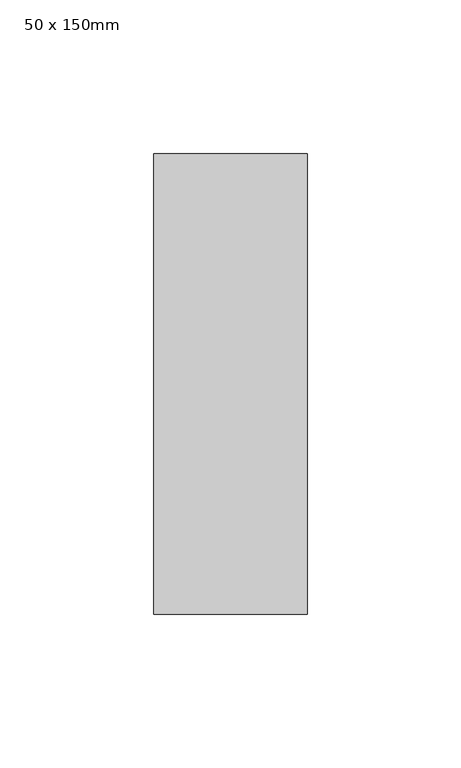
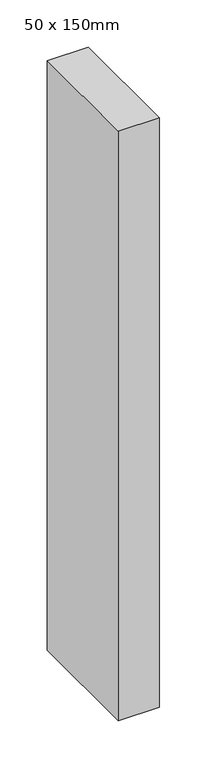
"""IFC4 building model written with IfcOpenShell, lengths in millimetres: member geometry, Прямоугольный импост : 50 x 150mm."""

from ifc_helpers import new_model, si_unit, frame, origin, place, context, project, spatial, polyline, outline, extrude, source, transform, mapped, element, save


def member_50_x_150mm_df842e1d(model_context):
    return source(origin(), model_context, "Body", "SweptSolid", [
        extrude(outline(polyline([(0.0, 75.0), (0.0, -75.0), (-50.0, -75.0), (-50.0, 75.0), (0.0, 75.0)])), frame((0.0, 0.0, -759.6264863), z_axis=(0.0, 0.0, 1.0), x_axis=(1.0, 0.0, 0.0)), (0.0, 0.0, 1.0), 759.6264863),
    ])


if __name__ == "__main__":
    model = new_model("IFC4")
    model_context = context("Model", 3, world=origin())
    ifc_project = project(units=[si_unit("LENGTHUNIT", "METRE", prefix="MILLI")], contexts=[model_context])
    site = spatial("IfcSite", under=ifc_project)
    building = spatial("IfcBuilding", under=site)
    placement = place(None, origin())
    member_50_x_150mm_shape = member_50_x_150mm_df842e1d(model_context)
    element("IfcMember", 1, ObjectType="Прямоугольный импост : 50 x 150mm", at=placement, inside=building, context=model_context, shape_type="MappedRepresentation", body=[
        mapped(member_50_x_150mm_shape, transform((0.0, 0.0, 0.0), x_axis=(1.0, 0.0, 0.0), y_axis=(0.0, 1.0, 0.0), z_axis=(0.0, 0.0, 1.0))),
    ])
    save(model, "model.ifc")
